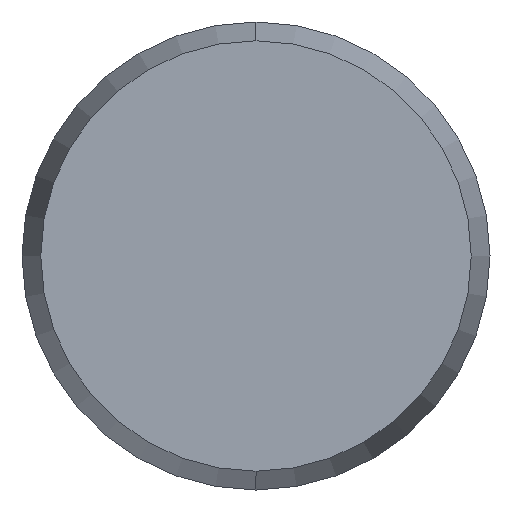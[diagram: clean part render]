
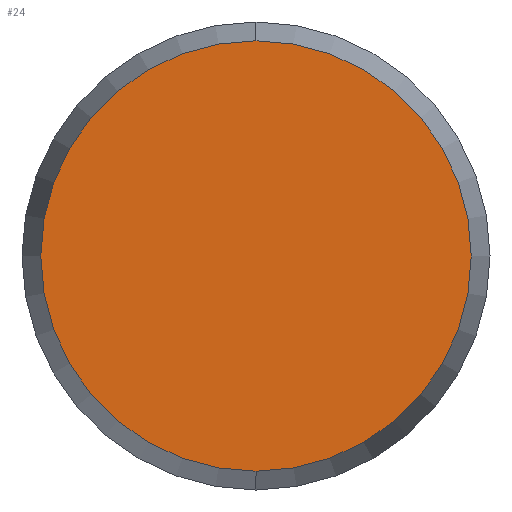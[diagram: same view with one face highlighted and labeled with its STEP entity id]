
A CAD part, left-side view. The second image highlights one B-rep face of the part: STEP entity #24.
In plain terms, the highlighted planar face has unit normal (-1, 0, 0).
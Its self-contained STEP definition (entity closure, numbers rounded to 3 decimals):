
#5 = ORIENTED_EDGE ( 'NONE', *, *, #53, .F. ) ;
#22 = VERTEX_POINT ( 'NONE', #113 ) ;
#24 = ADVANCED_FACE ( 'NONE', ( #114 ), #121, .F. ) ;
#33 = VERTEX_POINT ( 'NONE', #131 ) ;
#40 = EDGE_CURVE ( 'NONE', #33, #22, #137, .T. ) ;
#42 = EDGE_LOOP ( 'NONE', ( #58, #5 ) ) ;
#53 = EDGE_CURVE ( 'NONE', #22, #33, #184, .T. ) ;
#58 = ORIENTED_EDGE ( 'NONE', *, *, #40, .F. ) ;
#113 = CARTESIAN_POINT ( 'NONE',  ( -9., 0., -4.598 ) ) ;
#114 = FACE_OUTER_BOUND ( 'NONE', #42, .T. ) ;
#117 = CARTESIAN_POINT ( 'NONE',  ( -9., 0., 0. ) ) ;
#120 = AXIS2_PLACEMENT_3D ( 'NONE', #117, #124, #123 ) ;
#121 = PLANE ( 'NONE',  #120 ) ;
#123 = DIRECTION ( 'NONE',  ( 0., 0., -1. ) ) ;
#124 = DIRECTION ( 'NONE',  ( 1., 0., 0. ) ) ;
#130 = DIRECTION ( 'NONE',  ( 0., 0., -1. ) ) ;
#131 = CARTESIAN_POINT ( 'NONE',  ( -9., 0., 4.598 ) ) ;
#137 = CIRCLE ( 'NONE', #139, 4.598 ) ;
#139 = AXIS2_PLACEMENT_3D ( 'NONE', #141, #140, #130 ) ;
#140 = DIRECTION ( 'NONE',  ( 1., 0., 0. ) ) ;
#141 = CARTESIAN_POINT ( 'NONE',  ( -9., 0., 0. ) ) ;
#184 = CIRCLE ( 'NONE', #185, 4.598 ) ;
#185 = AXIS2_PLACEMENT_3D ( 'NONE', #187, #188, #186 ) ;
#186 = DIRECTION ( 'NONE',  ( 0., 0., -1. ) ) ;
#187 = CARTESIAN_POINT ( 'NONE',  ( -9., 0., 0. ) ) ;
#188 = DIRECTION ( 'NONE',  ( 1., 0., 0. ) ) ;
